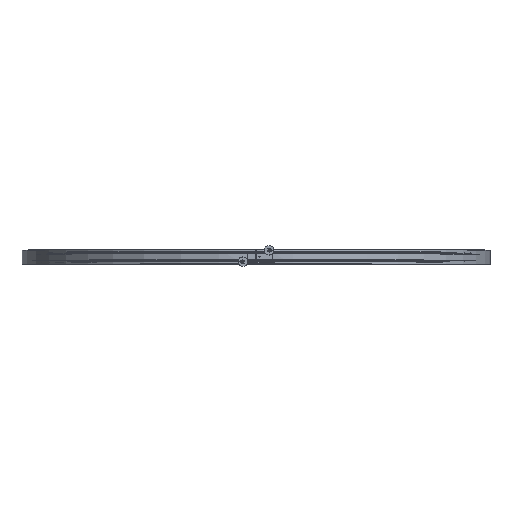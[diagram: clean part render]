
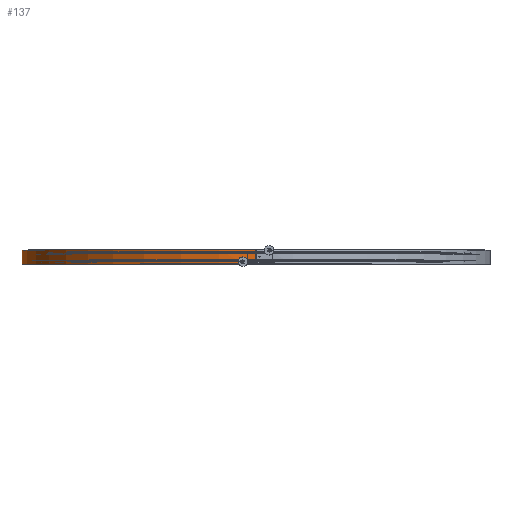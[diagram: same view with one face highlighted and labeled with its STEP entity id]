
A CAD part, top view. The second image highlights one B-rep face of the part: STEP entity #137.
In plain terms, the highlighted free-form (B-spline) face has degree [2, 1] with [9, 2] control points.
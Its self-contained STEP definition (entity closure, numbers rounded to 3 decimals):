
#82=FACE_BOUND('',#838,.T.);
#137=ADVANCED_FACE('',(#487,#82),#5249,.T.);
#487=FACE_OUTER_BOUND('',#837,.T.);
#837=EDGE_LOOP('',(#1316,#1317,#1318,#1319));
#838=EDGE_LOOP('',(#1320,#1321));
#1316=ORIENTED_EDGE('',*,*,#3011,.T.);
#1317=ORIENTED_EDGE('',*,*,#3010,.T.);
#1318=ORIENTED_EDGE('',*,*,#3007,.F.);
#1319=ORIENTED_EDGE('',*,*,#2955,.F.);
#1320=ORIENTED_EDGE('',*,*,#3008,.T.);
#1321=ORIENTED_EDGE('',*,*,#3009,.T.);
#2955=EDGE_CURVE('',#4684,#4680,#3806,.T.);
#3007=EDGE_CURVE('',#4680,#4693,#4247,.T.);
#3008=EDGE_CURVE('',#4639,#4640,#4248,.T.);
#3009=EDGE_CURVE('',#4640,#4639,#4249,.T.);
#3010=EDGE_CURVE('',#4727,#4693,#3857,.T.);
#3011=EDGE_CURVE('',#4684,#4727,#4250,.T.);
#3806=(
BOUNDED_CURVE()
B_SPLINE_CURVE(2,(#12810,#12811,#12812),.UNSPECIFIED.,.F.,.F.)
B_SPLINE_CURVE_WITH_KNOTS((3,3),(0.,766.481),.UNSPECIFIED.)
CURVE()
GEOMETRIC_REPRESENTATION_ITEM()
RATIONAL_B_SPLINE_CURVE((1.,0.708,1.))
REPRESENTATION_ITEM('')
);
#3857=(
BOUNDED_CURVE()
B_SPLINE_CURVE(2,(#13029,#13030,#13031),.UNSPECIFIED.,.F.,.F.)
B_SPLINE_CURVE_WITH_KNOTS((3,3),(0.,766.481),.UNSPECIFIED.)
CURVE()
GEOMETRIC_REPRESENTATION_ITEM()
RATIONAL_B_SPLINE_CURVE((1.,0.708,1.))
REPRESENTATION_ITEM('')
);
#4247=B_SPLINE_CURVE_WITH_KNOTS('',1,(#12993,#12994),.UNSPECIFIED.,.F.,
 .F.,(2,2),(0.,29.6),.UNSPECIFIED.);
#4248=B_SPLINE_CURVE_WITH_KNOTS('',3,(#12995,#12996,#12997,#12998,#12999,
#13000,#13001,#13002,#13003,#13004,#13005,#13006,#13007,#13008,#13009,#13010,
#13011,#13012),.UNSPECIFIED.,.F.,.F.,(4,2,2,2,2,2,2,2,4),(0.,0.395,
0.79,1.186,1.581,1.976,2.371,
2.767,3.162),.UNSPECIFIED.);
#4249=B_SPLINE_CURVE_WITH_KNOTS('',3,(#13013,#13014,#13015,#13016,#13017,
#13018,#13019,#13020,#13021,#13022,#13023,#13024,#13025,#13026,#13027,#13028),
 .UNSPECIFIED.,.F.,.F.,(4,2,2,2,2,2,2,4),(0.,0.794,1.191,
1.588,1.985,2.382,2.78,3.177),
 .UNSPECIFIED.);
#4250=B_SPLINE_CURVE_WITH_KNOTS('',1,(#13032,#13033),.UNSPECIFIED.,.F.,
 .F.,(2,2),(0.,29.6),.UNSPECIFIED.);
#4639=VERTEX_POINT('',#12295);
#4640=VERTEX_POINT('',#12296);
#4680=VERTEX_POINT('',#12336);
#4684=VERTEX_POINT('',#12340);
#4693=VERTEX_POINT('',#12349);
#4727=VERTEX_POINT('',#12383);
#5249=(
BOUNDED_SURFACE()
B_SPLINE_SURFACE(2,1,((#9382,#9383),(#9384,#9385),(#9386,#9387),(#9388,
#9389),(#9390,#9391),(#9392,#9393),(#9394,#9395),(#9396,#9397),(#9398,#9399)),
 .UNSPECIFIED.,.T.,.F.,.F.)
B_SPLINE_SURFACE_WITH_KNOTS((3,2,2,2,3),(2,2),(0.,767.334,1534.668,
2302.002,3069.336),(0.,35.52),.UNSPECIFIED.)
GEOMETRIC_REPRESENTATION_ITEM()
RATIONAL_B_SPLINE_SURFACE(((1.,1.),(0.707,0.707),
(1.,1.),(0.707,0.707),(1.,1.),(0.707,
0.707),(1.,1.),(0.707,0.707),(1.,1.)))
REPRESENTATION_ITEM('')
SURFACE()
);
#9382=CARTESIAN_POINT('',(0.,-17.76,-488.5));
#9383=CARTESIAN_POINT('',(0.,17.76,-488.5));
#9384=CARTESIAN_POINT('',(-488.5,-17.76,-488.5));
#9385=CARTESIAN_POINT('',(-488.5,17.76,-488.5));
#9386=CARTESIAN_POINT('',(-488.5,-17.76,0.));
#9387=CARTESIAN_POINT('',(-488.5,17.76,0.));
#9388=CARTESIAN_POINT('',(-488.5,-17.76,488.5));
#9389=CARTESIAN_POINT('',(-488.5,17.76,488.5));
#9390=CARTESIAN_POINT('',(0.,-17.76,488.5));
#9391=CARTESIAN_POINT('',(0.,17.76,488.5));
#9392=CARTESIAN_POINT('',(488.5,-17.76,488.5));
#9393=CARTESIAN_POINT('',(488.5,17.76,488.5));
#9394=CARTESIAN_POINT('',(488.5,-17.76,0.));
#9395=CARTESIAN_POINT('',(488.5,17.76,0.));
#9396=CARTESIAN_POINT('',(488.5,-17.76,-488.5));
#9397=CARTESIAN_POINT('',(488.5,17.76,-488.5));
#9398=CARTESIAN_POINT('',(0.,-17.76,-488.5));
#9399=CARTESIAN_POINT('',(0.,17.76,-488.5));
#12295=CARTESIAN_POINT('',(-487.781,12.,26.502));
#12296=CARTESIAN_POINT('',(-487.668,12.,28.498));
#12336=CARTESIAN_POINT('',(0.,14.8,488.5));
#12340=CARTESIAN_POINT('',(-488.499,14.8,0.853));
#12349=CARTESIAN_POINT('',(0.,-14.8,488.5));
#12383=CARTESIAN_POINT('',(-488.499,-14.8,0.853));
#12810=CARTESIAN_POINT('',(-488.499,14.8,0.853));
#12811=CARTESIAN_POINT('',(-487.648,14.8,488.5));
#12812=CARTESIAN_POINT('',(0.,14.8,488.5));
#12993=CARTESIAN_POINT('',(0.,14.8,488.5));
#12994=CARTESIAN_POINT('',(0.,-14.8,488.5));
#12995=CARTESIAN_POINT('',(-487.781,12.,26.502));
#12996=CARTESIAN_POINT('',(-487.781,12.131,26.502));
#12997=CARTESIAN_POINT('',(-487.779,12.261,26.527));
#12998=CARTESIAN_POINT('',(-487.774,12.504,26.628));
#12999=CARTESIAN_POINT('',(-487.77,12.614,26.701));
#13000=CARTESIAN_POINT('',(-487.759,12.801,26.887));
#13001=CARTESIAN_POINT('',(-487.753,12.874,26.997));
#13002=CARTESIAN_POINT('',(-487.74,12.974,27.239));
#13003=CARTESIAN_POINT('',(-487.733,13.,27.37));
#13004=CARTESIAN_POINT('',(-487.718,13.,27.631));
#13005=CARTESIAN_POINT('',(-487.711,12.974,27.762));
#13006=CARTESIAN_POINT('',(-487.697,12.874,28.002));
#13007=CARTESIAN_POINT('',(-487.69,12.799,28.114));
#13008=CARTESIAN_POINT('',(-487.68,12.615,28.298));
#13009=CARTESIAN_POINT('',(-487.675,12.504,28.372));
#13010=CARTESIAN_POINT('',(-487.67,12.262,28.472));
#13011=CARTESIAN_POINT('',(-487.668,12.132,28.498));
#13012=CARTESIAN_POINT('',(-487.668,12.,28.498));
#13013=CARTESIAN_POINT('',(-487.668,12.,28.498));
#13014=CARTESIAN_POINT('',(-487.668,11.736,28.498));
#13015=CARTESIAN_POINT('',(-487.674,11.477,28.39));
#13016=CARTESIAN_POINT('',(-487.69,11.2,28.113));
#13017=CARTESIAN_POINT('',(-487.697,11.126,28.003));
#13018=CARTESIAN_POINT('',(-487.711,11.026,27.76));
#13019=CARTESIAN_POINT('',(-487.718,11.,27.631));
#13020=CARTESIAN_POINT('',(-487.733,11.,27.368));
#13021=CARTESIAN_POINT('',(-487.74,11.026,27.238));
#13022=CARTESIAN_POINT('',(-487.753,11.127,26.996));
#13023=CARTESIAN_POINT('',(-487.76,11.201,26.885));
#13024=CARTESIAN_POINT('',(-487.77,11.386,26.701));
#13025=CARTESIAN_POINT('',(-487.774,11.497,26.627));
#13026=CARTESIAN_POINT('',(-487.779,11.738,26.528));
#13027=CARTESIAN_POINT('',(-487.781,11.869,26.502));
#13028=CARTESIAN_POINT('',(-487.781,12.,26.502));
#13029=CARTESIAN_POINT('',(-488.499,-14.8,0.853));
#13030=CARTESIAN_POINT('',(-487.648,-14.8,488.5));
#13031=CARTESIAN_POINT('',(0.,-14.8,488.5));
#13032=CARTESIAN_POINT('',(-488.499,14.8,0.853));
#13033=CARTESIAN_POINT('',(-488.499,-14.8,0.853));
